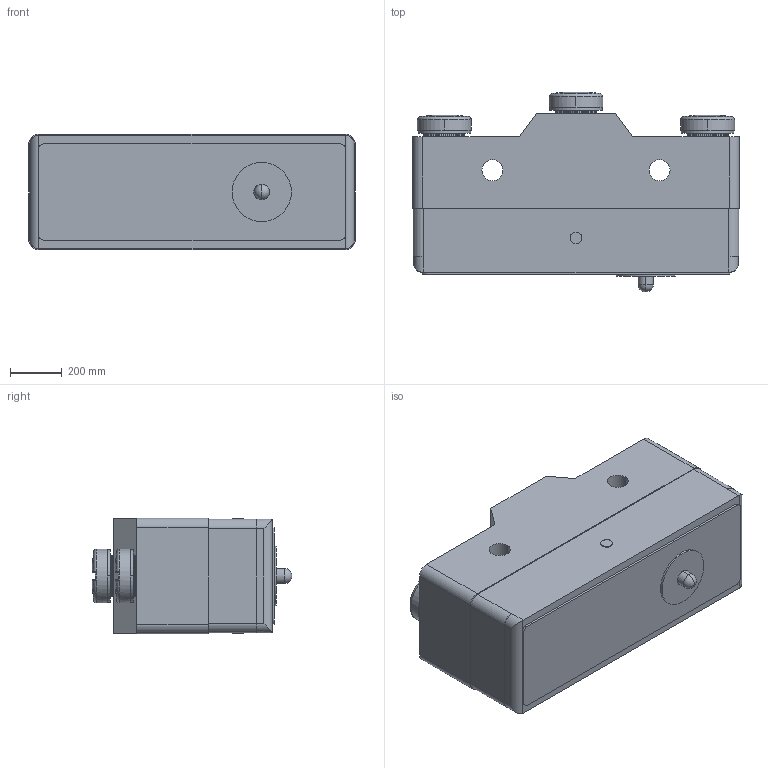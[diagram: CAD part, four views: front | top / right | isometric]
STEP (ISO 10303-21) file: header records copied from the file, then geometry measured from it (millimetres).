
FILE_DESCRIPTION((''),'2;1');
FILE_NAME('ASM0007_ASM','2016-08-15T',('ABS'),(''),'PRO/ENGINEER BY PARAMETRIC TECHNOLOGY CORPORATION, 2012360','PRO/ENGINEER BY PARAMETRIC TECHNOLOGY CORPORATION, 2012360','');
FILE_SCHEMA(('CONFIG_CONTROL_DESIGN'));
Length unit declared in the file: millimetre
Products named in the file (1): ASM0007_ASM
Bounding box: 1259.84 x 771.68 x 447.04 mm (x, y, z)
Volume: 273269368.4 mm3; surface area: 5799096.8 mm2
Topology: 1 solids, 14 shells, 796 faces, 2293 edges, 1517 vertices
Faces by surface type: cylinder 484, plane 202, bspline 57, torus 36, sphere 17
Entity records: 32496 total; most frequent: CARTESIAN_POINT 12241, ORIENTED_EDGE 4564, DIRECTION 3877, EDGE_CURVE 2282, VERTEX_POINT 1517, AXIS2_PLACEMENT_3D 1454, VECTOR 969, LINE 969
